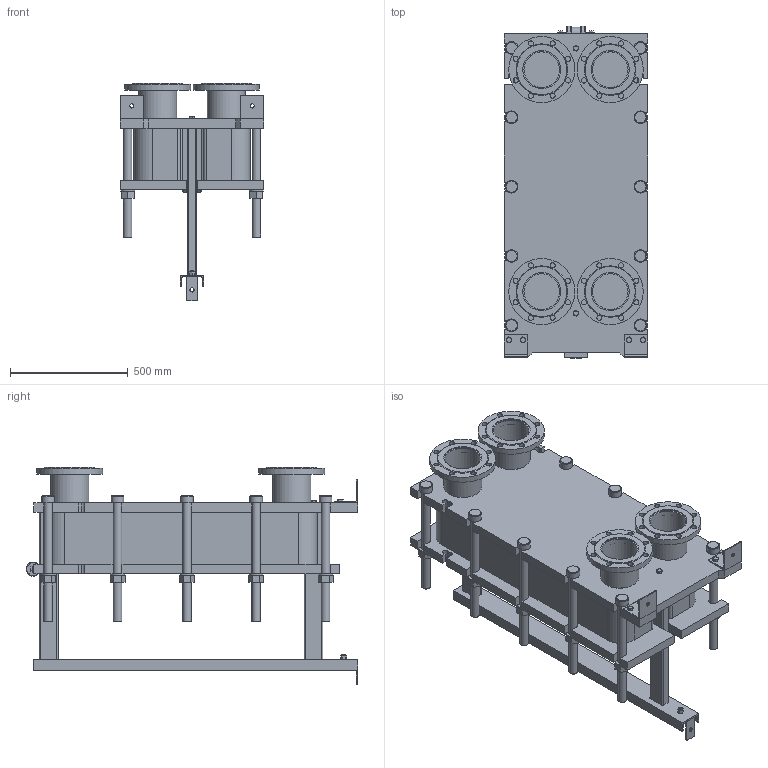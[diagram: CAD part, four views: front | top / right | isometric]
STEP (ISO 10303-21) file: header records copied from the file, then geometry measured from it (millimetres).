
FILE_DESCRIPTION(/* description */ (''),/* implementation_level */ '2;1');
FILE_NAME(/* name */ 'C:\Users\zhuro\Desktop\ENCO\TO\ЭН-041\ЭН-0,5-041-64-1.stp',/* time_stamp */ '2022-06-06T10:54:32+03:00',/* author */ ('zhuro'),/* organization */ (''),/* preprocessor_version */ 'ST-DEVELOPER v18.1',/* originating_system */ 'Autodesk Inventor 2022',/* authorisation */ '');
FILE_SCHEMA (('AUTOMOTIVE_DESIGN { 1 0 10303 214 3 1 1 }'));
Length unit declared in the file: millimetre
Products named in the file (1): ЭН-0,5-041-64-1
Bounding box: 610 x 1406.5 x 920 mm (x, y, z)
Volume: 202129490.9 mm3; surface area: 8230740.6 mm2
Topology: 52 solids, 52 shells, 711 faces, 1696 edges, 1094 vertices
Faces by surface type: plane 487, cylinder 177, cone 41, torus 6
Full cylindrical faces by diameter (mm): 8 x4, 10 x2, 16 x8, 18 x3, 22 x32, 36 x24, 50 x1, 54 x10, 60 x12, 151 x4, 161 x8, 280 x4
Entity records: 22667 total; most frequent: CARTESIAN_POINT 5230, DIRECTION 3644, ORIENTED_EDGE 3392, EDGE_CURVE 1696, AXIS2_PLACEMENT_3D 1272, LINE 1100, VECTOR 1100, VERTEX_POINT 1094
